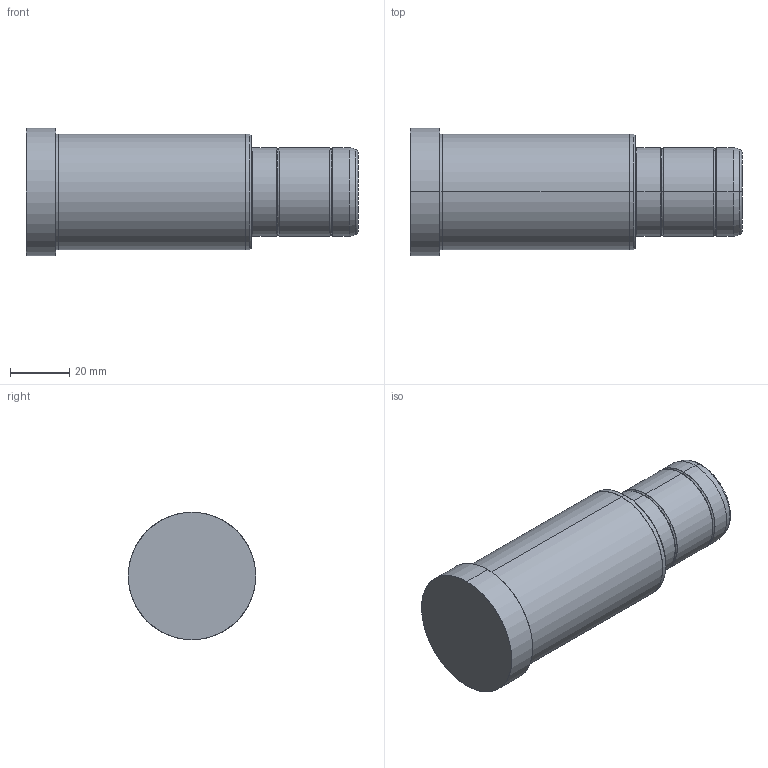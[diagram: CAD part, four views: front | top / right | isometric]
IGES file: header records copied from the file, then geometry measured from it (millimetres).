
Start section: SolidWorks IGES file using analytic representation for surfaces
Global section: file name: C:\Documents and Settings\kalite-mail\Desktop\IGS\D02\30\D02 - 30x76x36.IGS; native system: SolidWorks 2008; preprocessor: SolidWorks 2008; author: kalite-mail; date: 080617.092751; units: millimetre
Bounding box: 112 x 43 x 43 mm (x, y, z)
Surface area: 15694.1 mm2 (no closed solid volume)
Topology: 0 solids, 0 shells, 36 faces, 728 edges, 728 vertices
Faces by surface type: bspline 18, revolution 18
